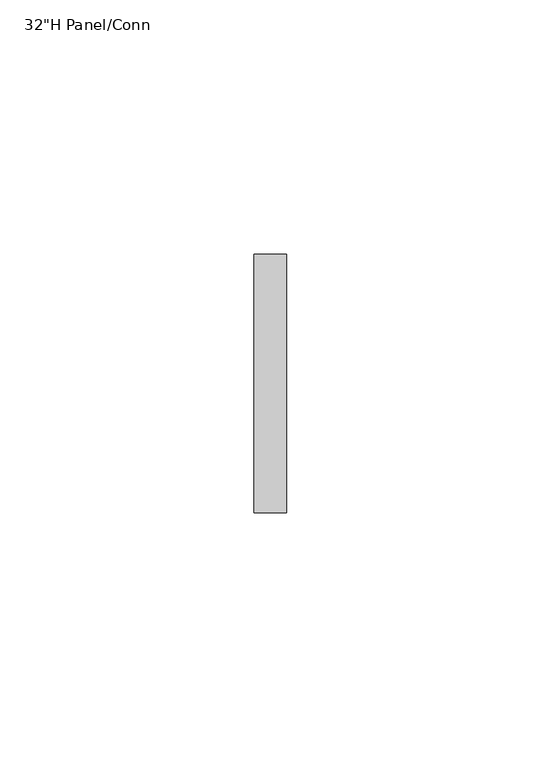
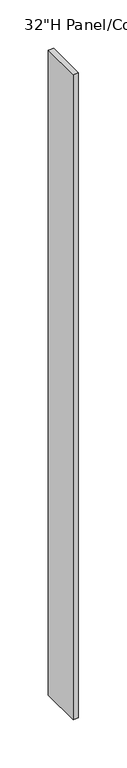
"""IFC4 building model written with IfcOpenShell, lengths in millimetres: furniture geometry."""

from ifc_helpers import new_model, si_unit, frame, origin, place, context, project, spatial, polyline, outline, extrude, source, transform, mapped, element, save


def furniture_f05ba5ec(model_context):
    return source(origin(), model_context, "Body", "SweptSolid", [
        extrude(outline(polyline([(-60.5209988, 104.9709924), (-60.5209967, 54.1709916), (-66.8709967, 54.1709914), (-66.8709988, 104.9709922), (-60.5209988, 104.9709924)])), frame((0.0, 0.0, 1365.2500008), z_axis=(0.0, 0.0, 1.0), x_axis=(1.0, 0.0, 0.0)), (0.0, 0.0, 1.0), 812.8),
    ])


if __name__ == "__main__":
    model = new_model("IFC4")
    model_context = context("Model", 3, world=origin())
    ifc_project = project(units=[si_unit("LENGTHUNIT", "METRE", prefix="MILLI")], contexts=[model_context])
    site = spatial("IfcSite", under=ifc_project)
    building = spatial("IfcBuilding", under=site)
    placement = place(None, origin())
    furniture_shape = furniture_f05ba5ec(model_context)
    element("IfcFurniture", 1, ObjectType="HermanMiller_ActionOffice_AO259_AO272_FinishedEndChangeOfHeight : 32\"H Panel/Conn", at=placement, inside=building, context=model_context, shape_type="MappedRepresentation", body=[
        mapped(furniture_shape, transform((0.0, 0.0, 0.0), x_axis=(1.0, 0.0, 0.0), y_axis=(0.0, 1.0, 0.0), z_axis=(0.0, 0.0, 1.0))),
    ])
    save(model, "model.ifc")
